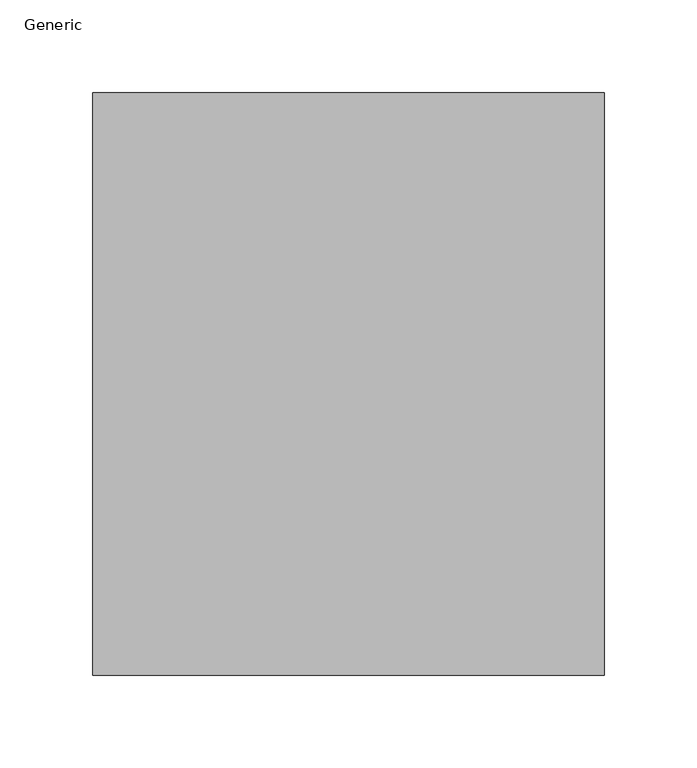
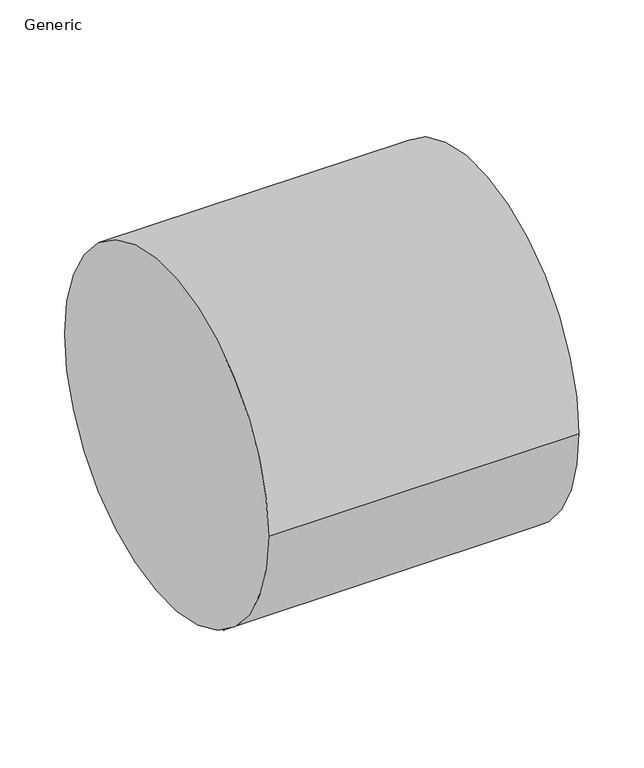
"""IFC4 building model written with IfcOpenShell, lengths in millimetres: proxy geometry, GM_Conduct : Generic."""

from ifc_helpers import new_model, si_unit, point, frame, frame_2d, origin, place, context, project, spatial, circle_curve, trimmed, segment, composite_curve, outline, extrude, source, transform, mapped, element, save


def generic_b990c55b(model_context):
    return source(origin(), model_context, "Body", "SweptSolid", [
        extrude(outline(composite_curve([segment(trimmed(circle_curve(frame_2d((0.0, 114.5)), 157.5), [point((157.5, 114.5))], [point((-157.5, 114.5))], False, "CARTESIAN"), True, "CONTINUOUS"), segment(trimmed(circle_curve(frame_2d((0.0, 114.5)), 157.5), [point((-157.5, 114.5))], [point((157.5, 114.5))], False, "CARTESIAN"), True, "CONTINUOUS")], self_intersect=False)), frame((0.0, 0.0, 0.0), z_axis=(1.0, 0.0, 0.0), x_axis=(0.0, 1.0, 0.0)), (0.0, 0.0, 1.0), 276.5),
    ])


if __name__ == "__main__":
    model = new_model("IFC4")
    model_context = context("Model", 3, world=origin())
    ifc_project = project(units=[si_unit("LENGTHUNIT", "METRE", prefix="MILLI")], contexts=[model_context])
    site = spatial("IfcSite", under=ifc_project)
    building = spatial("IfcBuilding", under=site)
    placement = place(None, origin())
    generic_shape = generic_b990c55b(model_context)
    element("IfcBuildingElementProxy", 1, Name="GM_Conduct : Generic", ObjectType="GM_Conduct : Generic", at=placement, inside=building, context=model_context, shape_type="MappedRepresentation", body=[
        mapped(generic_shape, transform((0.0, 0.0, 0.0), x_axis=(1.0, 0.0, 0.0), y_axis=(0.0, 1.0, 0.0), z_axis=(0.0, 0.0, 1.0))),
    ])
    save(model, "model.ifc")
